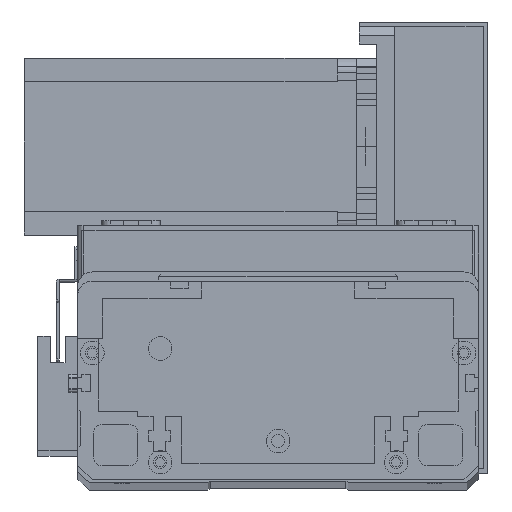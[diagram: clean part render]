
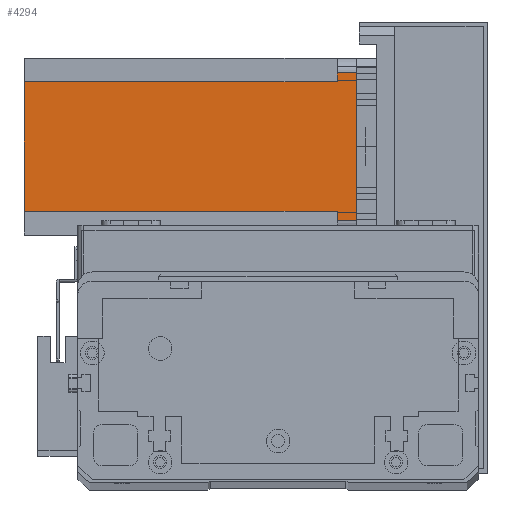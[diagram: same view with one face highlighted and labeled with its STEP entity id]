
A CAD part, top view. The second image highlights one B-rep face of the part: STEP entity #4294.
In plain terms, the highlighted planar face has unit normal (0, 0, 1) as drawn and (0, 1, 0) by its records, which use the part's own axes.
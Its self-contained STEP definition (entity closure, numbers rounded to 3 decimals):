
#39 = CARTESIAN_POINT ( 'NONE',  ( 55., 60., -6.5 ) ) ;
#50 = PLANE ( 'NONE',  #23433 ) ;
#263 = VERTEX_POINT ( 'NONE', #9717 ) ;
#476 = VERTEX_POINT ( 'NONE', #14122 ) ;
#2174 = EDGE_CURVE ( 'NONE', #8387, #26785, #18174, .T. ) ;
#2225 = LINE ( 'NONE', #10545, #2976 ) ;
#2274 = VECTOR ( 'NONE', #3898, 1000. ) ;
#2976 = VECTOR ( 'NONE', #24021, 1000. ) ;
#3367 = EDGE_CURVE ( 'NONE', #14170, #26785, #18870, .T. ) ;
#3625 = ORIENTED_EDGE ( 'NONE', *, *, #27497, .F. ) ;
#3898 = DIRECTION ( 'NONE',  ( 1., 0., 0. ) ) ;
#4106 = DIRECTION ( 'NONE',  ( 0., 0., 1. ) ) ;
#4294 = ADVANCED_FACE ( 'NONE', ( #8880 ), #50, .T. ) ;
#5761 = LINE ( 'NONE', #7916, #17298 ) ;
#5792 = CARTESIAN_POINT ( 'NONE',  ( 52., 60., -6.5 ) ) ;
#5940 = VECTOR ( 'NONE', #14583, 1000. ) ;
#5958 = VECTOR ( 'NONE', #7512, 1000. ) ;
#6460 = ORIENTED_EDGE ( 'NONE', *, *, #25924, .F. ) ;
#6688 = LINE ( 'NONE', #18583, #11437 ) ;
#6765 = EDGE_CURVE ( 'NONE', #14170, #263, #11652, .T. ) ;
#7101 = CARTESIAN_POINT ( 'NONE',  ( 8., 60., -112.5 ) ) ;
#7367 = EDGE_CURVE ( 'NONE', #263, #10763, #5761, .T. ) ;
#7512 = DIRECTION ( 'NONE',  ( 0., 0., -1. ) ) ;
#7916 = CARTESIAN_POINT ( 'NONE',  ( 5., 60., -112.5 ) ) ;
#8387 = VERTEX_POINT ( 'NONE', #24971 ) ;
#8880 = FACE_OUTER_BOUND ( 'NONE', #25918, .T. ) ;
#9717 = CARTESIAN_POINT ( 'NONE',  ( 5., 60., -6.5 ) ) ;
#10456 = VECTOR ( 'NONE', #26659, 1000. ) ;
#10545 = CARTESIAN_POINT ( 'NONE',  ( 0., 60., 0. ) ) ;
#10763 = VERTEX_POINT ( 'NONE', #19842 ) ;
#10997 = CARTESIAN_POINT ( 'NONE',  ( 55., 60., -112.5 ) ) ;
#11437 = VECTOR ( 'NONE', #20799, 1000. ) ;
#11652 = LINE ( 'NONE', #13189, #28823 ) ;
#13189 = CARTESIAN_POINT ( 'NONE',  ( 8., 60., -6.5 ) ) ;
#13937 = DIRECTION ( 'NONE',  ( -1., 0., 0. ) ) ;
#14122 = CARTESIAN_POINT ( 'NONE',  ( 55., 60., 0. ) ) ;
#14170 = VERTEX_POINT ( 'NONE', #25585 ) ;
#14583 = DIRECTION ( 'NONE',  ( -1., 0., 0. ) ) ;
#16105 = LINE ( 'NONE', #19993, #2274 ) ;
#17298 = VECTOR ( 'NONE', #4106, 1000. ) ;
#18174 = LINE ( 'NONE', #28419, #5940 ) ;
#18485 = ORIENTED_EDGE ( 'NONE', *, *, #28368, .F. ) ;
#18583 = CARTESIAN_POINT ( 'NONE',  ( 52., 60., -112.5 ) ) ;
#18870 = LINE ( 'NONE', #7101, #5958 ) ;
#19842 = CARTESIAN_POINT ( 'NONE',  ( 5., 60., 0. ) ) ;
#19993 = CARTESIAN_POINT ( 'NONE',  ( 52., 60., -6.5 ) ) ;
#20799 = DIRECTION ( 'NONE',  ( 0., 0., 1. ) ) ;
#20871 = EDGE_CURVE ( 'NONE', #476, #24332, #21690, .T. ) ;
#21254 = ORIENTED_EDGE ( 'NONE', *, *, #7367, .T. ) ;
#21690 = LINE ( 'NONE', #10997, #10456 ) ;
#21866 = ORIENTED_EDGE ( 'NONE', *, *, #20871, .T. ) ;
#23204 = ORIENTED_EDGE ( 'NONE', *, *, #2174, .T. ) ;
#23433 = AXIS2_PLACEMENT_3D ( 'NONE', #28197, #27891, #27597 ) ;
#24021 = DIRECTION ( 'NONE',  ( -1., 0., 0. ) ) ;
#24332 = VERTEX_POINT ( 'NONE', #39 ) ;
#24971 = CARTESIAN_POINT ( 'NONE',  ( 52., 60., -112.5 ) ) ;
#25585 = CARTESIAN_POINT ( 'NONE',  ( 8., 60., -6.5 ) ) ;
#25595 = CARTESIAN_POINT ( 'NONE',  ( 8., 60., -112.5 ) ) ;
#25918 = EDGE_LOOP ( 'NONE', ( #3625, #21866, #6460, #18485, #23204, #27907, #27377, #21254 ) ) ;
#25924 = EDGE_CURVE ( 'NONE', #27503, #24332, #16105, .T. ) ;
#26659 = DIRECTION ( 'NONE',  ( 0., 0., -1. ) ) ;
#26785 = VERTEX_POINT ( 'NONE', #25595 ) ;
#27377 = ORIENTED_EDGE ( 'NONE', *, *, #6765, .T. ) ;
#27497 = EDGE_CURVE ( 'NONE', #476, #10763, #2225, .T. ) ;
#27503 = VERTEX_POINT ( 'NONE', #5792 ) ;
#27597 = DIRECTION ( 'NONE',  ( 0., 0., 1. ) ) ;
#27891 = DIRECTION ( 'NONE',  ( 0., 1., 0. ) ) ;
#27907 = ORIENTED_EDGE ( 'NONE', *, *, #3367, .F. ) ;
#28197 = CARTESIAN_POINT ( 'NONE',  ( 0., 60., -112.5 ) ) ;
#28368 = EDGE_CURVE ( 'NONE', #8387, #27503, #6688, .T. ) ;
#28419 = CARTESIAN_POINT ( 'NONE',  ( 0., 60., -112.5 ) ) ;
#28823 = VECTOR ( 'NONE', #13937, 1000. ) ;
